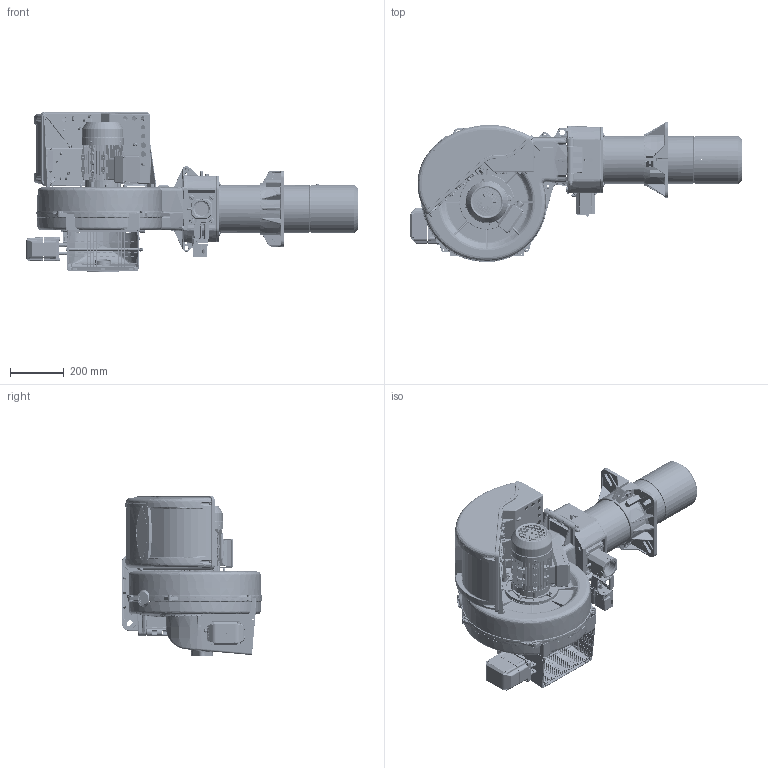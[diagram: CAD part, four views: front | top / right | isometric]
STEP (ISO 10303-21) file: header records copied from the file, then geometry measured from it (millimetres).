
FILE_DESCRIPTION (( 'STEP AP214' ), '1' );
FILE_NAME ('17500020-115230.STEP', '2017-09-14T14:11:39', ( '' ), ( '' ), 'SwSTEP 2.0', 'SolidWorks 2016', '' );
FILE_SCHEMA (( 'AUTOMOTIVE_DESIGN' ));
Length unit declared in the file: millimetre
Products named in the file (1): 17500020-115230
Bounding box: 1229.7 x 518.47 x 594.37 mm (x, y, z)
Surface area: 3483355.7 mm2 (no closed solid volume)
Topology: 0 solids, 297 shells, 4513 faces, 20887 edges, 15922 vertices
Faces by surface type: plane 2127, cylinder 1115, bspline 993, cone 253, torus 16, sphere 9
Full cylindrical faces by diameter (mm): 2.5 x2, 3.1 x1, 3.3 x1, 3.5 x1, 3.7 x1, 3.95 x1, 4 x1, 4.2 x5, 4.5 x1, 4.8 x3, 5 x7, 5.1 x2, 5.3 x1, 5.4 x2, 5.5 x1, 6 x7, 6.75 x2, 6.8 x2, 7 x10, 8 x18, 9 x2, 9.3 x3, 9.5 x4, 10 x6, 10.2 x2, 10.5 x2, 12 x5, 13.7 x1, 14 x2, 14.096 x1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
Entity records: 389241 total; most frequent: CARTESIAN_POINT 216997, ORIENTED_EDGE 28234, DIRECTION 21628, EDGE_CURVE 20390, VERTEX_POINT 15793, VECTOR 9954, LINE 9954, B_SPLINE_CURVE_WITH_KNOTS 7715
